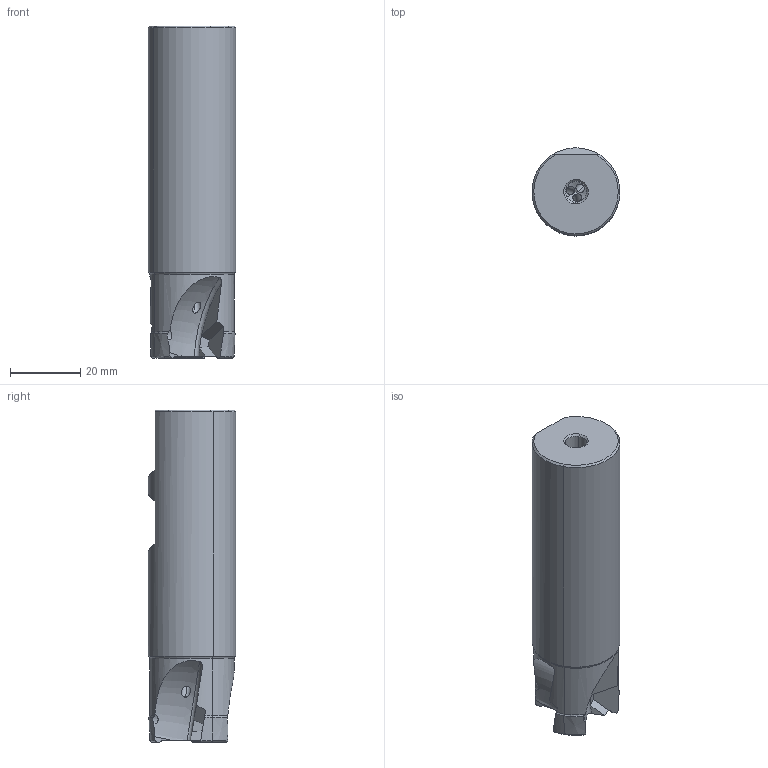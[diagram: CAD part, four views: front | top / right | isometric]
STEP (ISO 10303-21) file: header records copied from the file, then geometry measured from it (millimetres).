
FILE_DESCRIPTION(('CATIA V5 STEP'),'2;1');
FILE_NAME('I:\isr\design\admin8\users\yousef_k\3106415-D.stp','2012-11-18T11:37:17+00:00',('none'),('none'),'CATIA Version 5 Release 21 SP 3 (IN-10)','CATIA V5 STEP AP214','none');
FILE_SCHEMA(('AUTOMOTIVE_DESIGN { 1 0 10303 214 1 1 1 1 }'));
Length unit declared in the file: millimetre
Products named in the file (1): 61071352_0  HM390 ETP D25-3-W25-10
Bounding box: 25 x 24.99 x 94.4 mm (x, y, z)
Volume: 38626.5 mm3; surface area: 9955.2 mm2
Topology: 1 solids, 1 shells, 85 faces, 237 edges, 152 vertices
Faces by surface type: plane 28, torus 21, cylinder 18, cone 15, revolution 3
Entity records: 3035 total; most frequent: CARTESIAN_POINT 1161, ORIENTED_EDGE 470, DIRECTION 242, EDGE_CURVE 235, VERTEX_POINT 152, AXIS2_PLACEMENT_3D 121, B_SPLINE_CURVE_WITH_KNOTS 111, EDGE_LOOP 91
